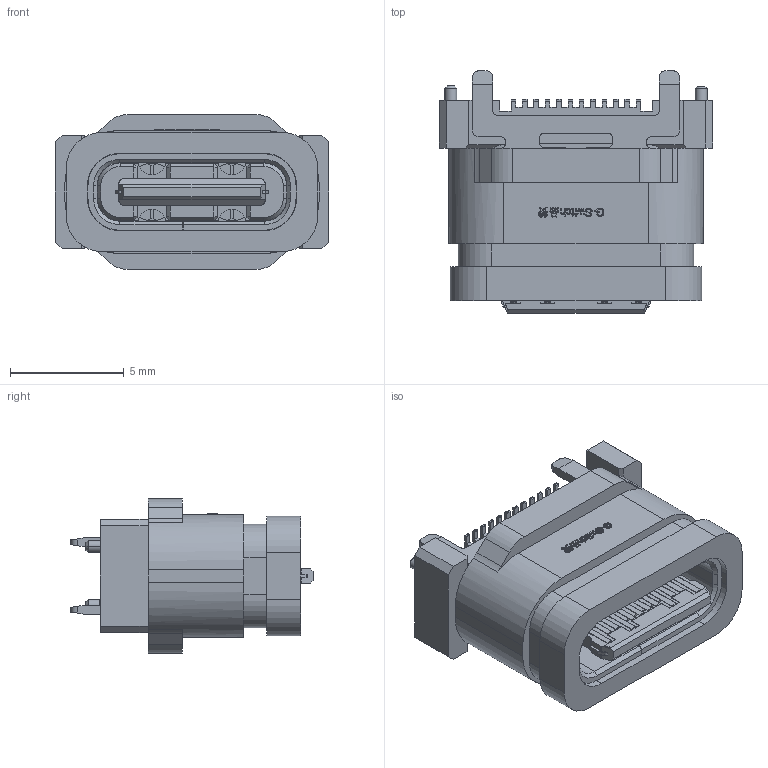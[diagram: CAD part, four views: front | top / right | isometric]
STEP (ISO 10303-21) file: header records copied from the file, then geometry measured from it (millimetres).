
FILE_DESCRIPTION (( 'STEP AP203' ), '1' );
FILE_NAME ('GT-USB-7096A.STEP', '2023-08-15T10:02:15', ( '' ), ( '' ), 'SwSTEP 2.0', 'SolidWorks 2023', '' );
FILE_SCHEMA (( 'CONFIG_CONTROL_DESIGN' ));
Length unit declared in the file: millimetre
Products named in the file (1): GT-USB-7096A
Bounding box: 12 x 10.65 x 6.8 mm (x, y, z)
Volume: 387.7 mm3; surface area: 1062.5 mm2
Topology: 1 solids, 33 shells, 1507 faces, 4046 edges, 2616 vertices
Faces by surface type: plane 1194, cylinder 213, bspline 74, cone 26
Entity records: 50149 total; most frequent: CARTESIAN_POINT 13016, ORIENTED_EDGE 8092, DIRECTION 6950, EDGE_CURVE 4046, LINE 3282, VECTOR 3282, VERTEX_POINT 2616, AXIS2_PLACEMENT_3D 1834
